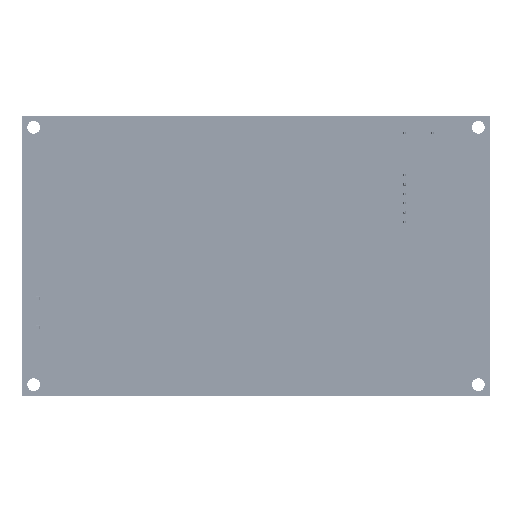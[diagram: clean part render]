
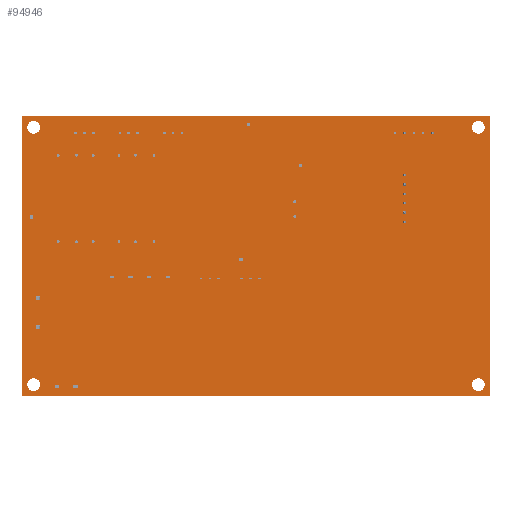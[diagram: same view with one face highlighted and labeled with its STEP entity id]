
A CAD part, front view. The second image highlights one B-rep face of the part: STEP entity #94946.
In plain terms, the highlighted planar face has unit normal (0, -1, 0).
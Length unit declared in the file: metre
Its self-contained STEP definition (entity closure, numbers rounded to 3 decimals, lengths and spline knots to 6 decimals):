
#76 = DIRECTION ( 'NONE',  ( -1., 0., 0. ) ) ;
#302 = DIRECTION ( 'NONE',  ( 0., -1., 0. ) ) ;
#1589 = VECTOR ( 'NONE', #32469, 1. ) ;
#4661 = AXIS2_PLACEMENT_3D ( 'NONE', #196181, #69124, #183807 ) ;
#5636 = VERTEX_POINT ( 'NONE', #127189 ) ;
#9843 = CARTESIAN_POINT ( 'NONE',  ( -0.060325, 0., -0.034925 ) ) ;
#10358 = ORIENTED_EDGE ( 'NONE', *, *, #192213, .F. ) ;
#10560 = FACE_BOUND ( 'NONE', #70884, .T. ) ;
#10759 = AXIS2_PLACEMENT_3D ( 'NONE', #48187, #177679, #33432 ) ;
#19071 = VERTEX_POINT ( 'NONE', #184719 ) ;
#24354 = AXIS2_PLACEMENT_3D ( 'NONE', #193902, #64396, #174977 ) ;
#26366 = FACE_BOUND ( 'NONE', #130155, .T. ) ;
#28737 = ORIENTED_EDGE ( 'NONE', *, *, #183560, .F. ) ;
#29358 = CARTESIAN_POINT ( 'NONE',  ( -0.0635, 0., 0. ) ) ;
#32469 = DIRECTION ( 'NONE',  ( 0., 0., 1. ) ) ;
#33057 = AXIS2_PLACEMENT_3D ( 'NONE', #179062, #83270, #49611 ) ;
#33432 = DIRECTION ( 'NONE',  ( 0., 0., 1. ) ) ;
#33725 = CARTESIAN_POINT ( 'NONE',  ( 0., 0., -0.0381 ) ) ;
#35603 = CARTESIAN_POINT ( 'NONE',  ( 0.060325, 0., 0.036675 ) ) ;
#39064 = FACE_BOUND ( 'NONE', #91012, .T. ) ;
#40563 = DIRECTION ( 'NONE',  ( 0., -1., 0. ) ) ;
#42171 = DIRECTION ( 'NONE',  ( 0., 1., 0. ) ) ;
#44834 = CARTESIAN_POINT ( 'NONE',  ( 0.0635, 0., 0. ) ) ;
#45112 = EDGE_CURVE ( 'NONE', #154160, #178623, #62285, .T. ) ;
#45592 = CARTESIAN_POINT ( 'NONE',  ( -0.060325, 0., 0.034925 ) ) ;
#48187 = CARTESIAN_POINT ( 'NONE',  ( 0.060325, 0., 0.034925 ) ) ;
#49611 = DIRECTION ( 'NONE',  ( 0., 0., 1. ) ) ;
#50505 = EDGE_CURVE ( 'NONE', #174705, #184111, #95656, .T. ) ;
#51781 = EDGE_CURVE ( 'NONE', #184111, #174705, #139425, .T. ) ;
#52279 = ORIENTED_EDGE ( 'NONE', *, *, #98838, .F. ) ;
#54836 = FACE_OUTER_BOUND ( 'NONE', #156819, .T. ) ;
#56667 = VERTEX_POINT ( 'NONE', #35603 ) ;
#56909 = CARTESIAN_POINT ( 'NONE',  ( 0., 0., 0.0381 ) ) ;
#58991 = CARTESIAN_POINT ( 'NONE',  ( -0.060325, 0., -0.036675 ) ) ;
#62285 = CIRCLE ( 'NONE', #69073, 0.00175 ) ;
#62714 = LINE ( 'NONE', #44834, #115142 ) ;
#64396 = DIRECTION ( 'NONE',  ( 0., -1., 0. ) ) ;
#69073 = AXIS2_PLACEMENT_3D ( 'NONE', #146629, #302, #128726 ) ;
#69124 = DIRECTION ( 'NONE',  ( 0., -1., 0. ) ) ;
#70658 = PLANE ( 'NONE',  #81191 ) ;
#70884 = EDGE_LOOP ( 'NONE', ( #52279, #168278 ) ) ;
#72296 = VECTOR ( 'NONE', #124273, 1. ) ;
#72724 = EDGE_CURVE ( 'NONE', #19071, #201278, #177745, .T. ) ;
#74188 = CARTESIAN_POINT ( 'NONE',  ( -0.0635, 0., 0.0381 ) ) ;
#74889 = CIRCLE ( 'NONE', #24354, 0.00175 ) ;
#78341 = EDGE_CURVE ( 'NONE', #147017, #127078, #140254, .T. ) ;
#79599 = ORIENTED_EDGE ( 'NONE', *, *, #45112, .F. ) ;
#81191 = AXIS2_PLACEMENT_3D ( 'NONE', #87473, #42171, #139034 ) ;
#82372 = ORIENTED_EDGE ( 'NONE', *, *, #137417, .F. ) ;
#83270 = DIRECTION ( 'NONE',  ( 0., -1., 0. ) ) ;
#87473 = CARTESIAN_POINT ( 'NONE',  ( 0., 0., 0. ) ) ;
#88190 = CARTESIAN_POINT ( 'NONE',  ( 0.060325, 0., -0.033175 ) ) ;
#91012 = EDGE_LOOP ( 'NONE', ( #79599, #182470 ) ) ;
#94946 = ADVANCED_FACE ( 'NONE', ( #10560, #26366, #186387, #39064, #54836 ), #70658, .F. ) ;
#95656 = CIRCLE ( 'NONE', #149343, 0.00175 ) ;
#98838 = EDGE_CURVE ( 'NONE', #56667, #111446, #74889, .T. ) ;
#100002 = CARTESIAN_POINT ( 'NONE',  ( 0.060325, 0., -0.036675 ) ) ;
#100221 = VECTOR ( 'NONE', #76, 1. ) ;
#101906 = CARTESIAN_POINT ( 'NONE',  ( 0.060325, 0., 0.033175 ) ) ;
#102221 = CIRCLE ( 'NONE', #4661, 0.00175 ) ;
#103389 = CARTESIAN_POINT ( 'NONE',  ( -0.060325, 0., -0.033175 ) ) ;
#107888 = EDGE_CURVE ( 'NONE', #178623, #154160, #162835, .T. ) ;
#111102 = CARTESIAN_POINT ( 'NONE',  ( -0.060325, 0., 0.033175 ) ) ;
#111446 = VERTEX_POINT ( 'NONE', #101906 ) ;
#115142 = VECTOR ( 'NONE', #125910, 1. ) ;
#121142 = LINE ( 'NONE', #56909, #72296 ) ;
#123552 = DIRECTION ( 'NONE',  ( 0., 0., 1. ) ) ;
#124273 = DIRECTION ( 'NONE',  ( 1., 0., 0. ) ) ;
#125910 = DIRECTION ( 'NONE',  ( 0., 0., -1. ) ) ;
#127078 = VERTEX_POINT ( 'NONE', #88190 ) ;
#127189 = CARTESIAN_POINT ( 'NONE',  ( 0.0635, 0., -0.0381 ) ) ;
#128726 = DIRECTION ( 'NONE',  ( 0., 0., 1. ) ) ;
#130155 = EDGE_LOOP ( 'NONE', ( #184897, #169631 ) ) ;
#131179 = EDGE_LOOP ( 'NONE', ( #82372, #156953 ) ) ;
#137417 = EDGE_CURVE ( 'NONE', #127078, #147017, #102221, .T. ) ;
#139034 = DIRECTION ( 'NONE',  ( 0., 0., 1. ) ) ;
#139425 = CIRCLE ( 'NONE', #176341, 0.00175 ) ;
#140254 = CIRCLE ( 'NONE', #33057, 0.00175 ) ;
#140406 = DIRECTION ( 'NONE',  ( 0., -1., 0. ) ) ;
#141411 = DIRECTION ( 'NONE',  ( 0., -1., 0. ) ) ;
#145338 = LINE ( 'NONE', #33725, #100221 ) ;
#146629 = CARTESIAN_POINT ( 'NONE',  ( -0.060325, 0., -0.034925 ) ) ;
#147017 = VERTEX_POINT ( 'NONE', #100002 ) ;
#148600 = CIRCLE ( 'NONE', #10759, 0.00175 ) ;
#149343 = AXIS2_PLACEMENT_3D ( 'NONE', #151179, #40563, #181704 ) ;
#151179 = CARTESIAN_POINT ( 'NONE',  ( -0.060325, 0., 0.034925 ) ) ;
#154160 = VERTEX_POINT ( 'NONE', #103389 ) ;
#156191 = DIRECTION ( 'NONE',  ( 0., 0., 1. ) ) ;
#156819 = EDGE_LOOP ( 'NONE', ( #193415, #28737, #197847, #10358 ) ) ;
#156953 = ORIENTED_EDGE ( 'NONE', *, *, #78341, .F. ) ;
#162835 = CIRCLE ( 'NONE', #176301, 0.00175 ) ;
#163937 = CARTESIAN_POINT ( 'NONE',  ( -0.060325, 0., 0.036675 ) ) ;
#168278 = ORIENTED_EDGE ( 'NONE', *, *, #201918, .F. ) ;
#169631 = ORIENTED_EDGE ( 'NONE', *, *, #50505, .F. ) ;
#172747 = EDGE_CURVE ( 'NONE', #177545, #5636, #62714, .T. ) ;
#174705 = VERTEX_POINT ( 'NONE', #111102 ) ;
#174977 = DIRECTION ( 'NONE',  ( 0., 0., 1. ) ) ;
#176301 = AXIS2_PLACEMENT_3D ( 'NONE', #9843, #141411, #156191 ) ;
#176341 = AXIS2_PLACEMENT_3D ( 'NONE', #45592, #140406, #123552 ) ;
#177545 = VERTEX_POINT ( 'NONE', #187480 ) ;
#177679 = DIRECTION ( 'NONE',  ( 0., -1., 0. ) ) ;
#177745 = LINE ( 'NONE', #29358, #1589 ) ;
#178623 = VERTEX_POINT ( 'NONE', #58991 ) ;
#179062 = CARTESIAN_POINT ( 'NONE',  ( 0.060325, 0., -0.034925 ) ) ;
#181704 = DIRECTION ( 'NONE',  ( 0., 0., 1. ) ) ;
#182470 = ORIENTED_EDGE ( 'NONE', *, *, #107888, .F. ) ;
#183560 = EDGE_CURVE ( 'NONE', #201278, #177545, #121142, .T. ) ;
#183807 = DIRECTION ( 'NONE',  ( 0., 0., 1. ) ) ;
#184111 = VERTEX_POINT ( 'NONE', #163937 ) ;
#184719 = CARTESIAN_POINT ( 'NONE',  ( -0.0635, 0., -0.0381 ) ) ;
#184897 = ORIENTED_EDGE ( 'NONE', *, *, #51781, .F. ) ;
#186387 = FACE_BOUND ( 'NONE', #131179, .T. ) ;
#187480 = CARTESIAN_POINT ( 'NONE',  ( 0.0635, 0., 0.0381 ) ) ;
#192213 = EDGE_CURVE ( 'NONE', #5636, #19071, #145338, .T. ) ;
#193415 = ORIENTED_EDGE ( 'NONE', *, *, #172747, .F. ) ;
#193902 = CARTESIAN_POINT ( 'NONE',  ( 0.060325, 0., 0.034925 ) ) ;
#196181 = CARTESIAN_POINT ( 'NONE',  ( 0.060325, 0., -0.034925 ) ) ;
#197847 = ORIENTED_EDGE ( 'NONE', *, *, #72724, .F. ) ;
#201278 = VERTEX_POINT ( 'NONE', #74188 ) ;
#201918 = EDGE_CURVE ( 'NONE', #111446, #56667, #148600, .T. ) ;
